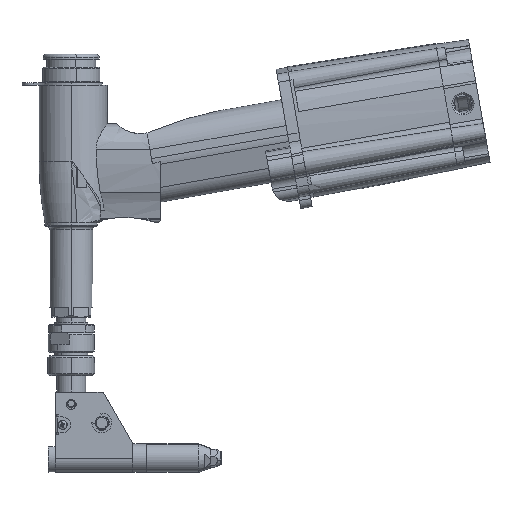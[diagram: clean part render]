
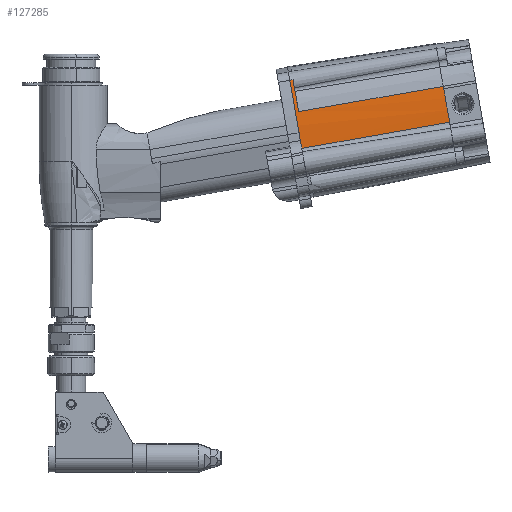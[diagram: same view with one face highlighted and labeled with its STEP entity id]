
A CAD part, left-side view. The second image highlights one B-rep face of the part: STEP entity #127285.
In plain terms, the highlighted conical face has half-angle 1.065 degrees and reference radius 162 mm.
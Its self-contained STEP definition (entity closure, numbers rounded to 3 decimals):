
#3959 = CARTESIAN_POINT ( 'NONE',  ( -40.252, -136.653, 36.987 ) ) ;
#4026 = VERTEX_POINT ( 'NONE', #134973 ) ;
#9341 = LINE ( 'NONE', #80045, #129186 ) ;
#9903 = CARTESIAN_POINT ( 'NONE',  ( -37.475, -133.23, 56.399 ) ) ;
#10037 = AXIS2_PLACEMENT_3D ( 'NONE', #116795, #147328, #19039 ) ;
#17584 = LINE ( 'NONE', #157979, #99160 ) ;
#18723 = DIRECTION ( 'NONE',  ( 0., 0.985, -0.174 ) ) ;
#19039 = DIRECTION ( 'NONE',  ( 0., -0.174, -0.985 ) ) ;
#26776 = CARTESIAN_POINT ( 'NONE',  ( -38.76, -230.638, 30.9 ) ) ;
#27823 = CIRCLE ( 'NONE', #10037, 160.299 ) ;
#32113 = VERTEX_POINT ( 'NONE', #79979 ) ;
#32286 = CARTESIAN_POINT ( 'NONE',  ( 121.25, -138.858, 24.484 ) ) ;
#33663 = CONICAL_SURFACE ( 'NONE', #48545, 162., 0.019 ) ;
#36688 = CARTESIAN_POINT ( 'NONE',  ( -40.215, -138.624, 37.331 ) ) ;
#37793 = ORIENTED_EDGE ( 'NONE', *, *, #163650, .T. ) ;
#38446 = VERTEX_POINT ( 'NONE', #9903 ) ;
#39401 = CARTESIAN_POINT ( 'NONE',  ( 121.25, -140.828, 24.832 ) ) ;
#42621 = CARTESIAN_POINT ( 'NONE',  ( -37.439, -135.201, 56.739 ) ) ;
#47490 = ORIENTED_EDGE ( 'NONE', *, *, #110168, .T. ) ;
#48545 = AXIS2_PLACEMENT_3D ( 'NONE', #32286, #89983, #49910 ) ;
#49910 = DIRECTION ( 'NONE',  ( 0., 0.174, 0.985 ) ) ;
#53511 = EDGE_CURVE ( 'NONE', #4026, #38446, #167379, .T. ) ;
#60426 = DIRECTION ( 'NONE',  ( -0.018, 0.985, -0.17 ) ) ;
#60759 = VERTEX_POINT ( 'NONE', #26776 ) ;
#67587 = ORIENTED_EDGE ( 'NONE', *, *, #126409, .T. ) ;
#73219 = FACE_OUTER_BOUND ( 'NONE', #131694, .T. ) ;
#73646 = CARTESIAN_POINT ( 'NONE',  ( 121.25, -138.858, 24.484 ) ) ;
#79979 = CARTESIAN_POINT ( 'NONE',  ( -38.556, -226.786, 52.744 ) ) ;
#80045 = CARTESIAN_POINT ( 'NONE',  ( -40.458, -140.546, 14.911 ) ) ;
#88523 = DIRECTION ( 'NONE',  ( 0., -0.174, -0.985 ) ) ;
#89983 = DIRECTION ( 'NONE',  ( 0., 0.985, -0.174 ) ) ;
#90955 = ORIENTED_EDGE ( 'NONE', *, *, #128716, .T. ) ;
#93242 = AXIS2_PLACEMENT_3D ( 'NONE', #73646, #18723, #88523 ) ;
#99160 = VECTOR ( 'NONE', #60426, 1000. ) ;
#102629 = DIRECTION ( 'NONE',  ( 0., -0.174, -0.985 ) ) ;
#110168 = EDGE_CURVE ( 'NONE', #163977, #172735, #131086, .T. ) ;
#116098 = ORIENTED_EDGE ( 'NONE', *, *, #119269, .T. ) ;
#116361 = AXIS2_PLACEMENT_3D ( 'NONE', #39401, #130500, #102629 ) ;
#116795 = CARTESIAN_POINT ( 'NONE',  ( 121.25, -228.968, 40.373 ) ) ;
#118356 = DIRECTION ( 'NONE',  ( -0.019, 0.985, -0.172 ) ) ;
#119269 = EDGE_CURVE ( 'NONE', #4026, #60759, #9341, .T. ) ;
#121930 = DIRECTION ( 'NONE',  ( 0.019, -0.984, 0.175 ) ) ;
#123007 = VECTOR ( 'NONE', #118356, 1000. ) ;
#126409 = EDGE_CURVE ( 'NONE', #172735, #38446, #17584, .T. ) ;
#127285 = ADVANCED_FACE ( 'NONE', ( #73219 ), #33663, .T. ) ;
#128716 = EDGE_CURVE ( 'NONE', #32113, #163977, #178355, .T. ) ;
#129186 = VECTOR ( 'NONE', #121930, 1000. ) ;
#130500 = DIRECTION ( 'NONE',  ( 0., 0.985, -0.174 ) ) ;
#131086 = CIRCLE ( 'NONE', #116361, 161.963 ) ;
#131694 = EDGE_LOOP ( 'NONE', ( #166518, #116098, #37793, #90955, #47490, #67587 ) ) ;
#134973 = CARTESIAN_POINT ( 'NONE',  ( -40.458, -140.546, 14.911 ) ) ;
#147328 = DIRECTION ( 'NONE',  ( 0., 0.985, -0.174 ) ) ;
#157979 = CARTESIAN_POINT ( 'NONE',  ( -37.475, -133.23, 56.399 ) ) ;
#163650 = EDGE_CURVE ( 'NONE', #60759, #32113, #27823, .T. ) ;
#163977 = VERTEX_POINT ( 'NONE', #36688 ) ;
#166518 = ORIENTED_EDGE ( 'NONE', *, *, #53511, .F. ) ;
#167379 = CIRCLE ( 'NONE', #93242, 162. ) ;
#172735 = VERTEX_POINT ( 'NONE', #42621 ) ;
#178355 = LINE ( 'NONE', #3959, #123007 ) ;
